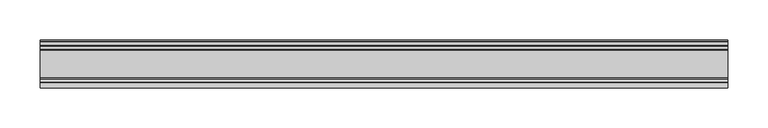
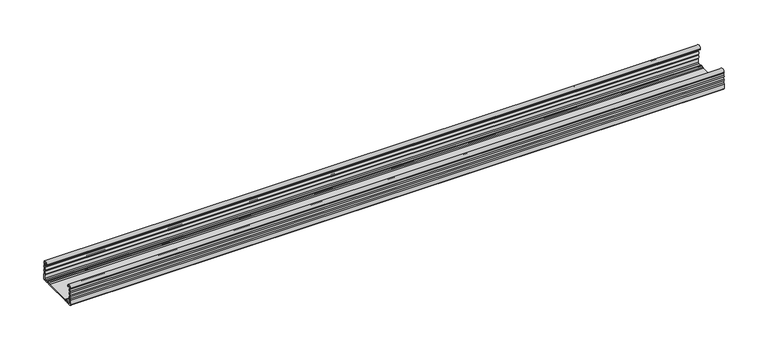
"""IFC4 building model written with IfcOpenShell, lengths in millimetres: proxy geometry, Несущий КНАУФ-профиль ПП 60х27 : Несущий КНАУФ-профиль ПП 60х27."""

import ifcopenshell
import ifcopenshell.guid

model = None  # the IFC model being written
_history = None  # IfcOwnerHistory: only IFC2X3 demands one
_inside = {}  # id of a spatial element -> (the spatial element, [elements in it])
_under = {}  # id of a project, library or spatial element -> (it, [spatial elements below it])
_declared = {}  # id of a project -> (the project, [libraries it declares])
_typed = {}  # id of a type object -> (the type object, [elements of that type])
_made_of = {}  # id of a material, layer set ... -> (it, [elements and type objects made of it])


def new_model(schema):
    """Start an empty IFC model of exactly this schema.

    Asked for "IFC4X3", IfcOpenShell would pick the latest addendum, in which some entities
    have other attributes; the version numbers below select the first issue.
    IFC2X3 requires an IfcOwnerHistory on every rooted entity: one is made here for all.
    """
    global model, _history
    if schema == "IFC4X3":
        model = ifcopenshell.file(schema_version=(4, 3, 0, 0))
    else:
        model = ifcopenshell.file(schema=schema)
    _inside.clear()
    _under.clear()
    _declared.clear()
    _typed.clear()
    _made_of.clear()
    _history = None
    if model.schema == "IFC2X3":
        org = make("IfcOrganization", Name="unknown")
        user = make(
            "IfcPersonAndOrganization",
            ThePerson=make("IfcPerson", FamilyName="unknown"),
            TheOrganization=org,
        )
        app = make(
            "IfcApplication",
            ApplicationDeveloper=org,
            Version="unknown",
            ApplicationFullName="unknown",
            ApplicationIdentifier="unknown",
        )
        _history = make(
            "IfcOwnerHistory",
            OwningUser=user,
            OwningApplication=app,
            ChangeAction="ADDED",
            CreationDate=0,
        )
    return model


def make(cls, **values):
    """One entity of the class cls with the attributes given. An attribute that is None is left unset."""
    return model.create_entity(
        cls, **{name: value for name, value in values.items() if value is not None}
    )


def rooted(cls, **values):
    """An entity with a GlobalId (a new one), such as an element, a storey or a relation."""
    return make(cls, GlobalId=ifcopenshell.guid.new(), OwnerHistory=_history, **values)


def si_unit(unit_type, name, prefix=None):
    """IfcSIUnit, for example si_unit("LENGTHUNIT", "METRE", prefix="MILLI")."""
    return make("IfcSIUnit", UnitType=unit_type, Prefix=prefix, Name=name)


def assignment(units):
    """IfcUnitAssignment: the units of a project."""
    return None if units is None else make("IfcUnitAssignment", Units=units)


def point(xyz):
    """IfcCartesianPoint."""
    return None if xyz is None else make("IfcCartesianPoint", Coordinates=xyz)


def direction(xyz):
    """IfcDirection."""
    return None if xyz is None else make("IfcDirection", DirectionRatios=xyz)


def frame(location, z_axis=None, x_axis=None):
    """IfcAxis2Placement3D, a coordinate frame: its origin and axes. An axis left out is left unset."""
    return make(
        "IfcAxis2Placement3D",
        Location=point(location),
        Axis=direction(z_axis),
        RefDirection=direction(x_axis),
    )


def frame_2d(location, x_axis=None):
    """IfcAxis2Placement2D, a coordinate frame in the plane: its origin and x axis."""
    return make(
        "IfcAxis2Placement2D", Location=point(location), RefDirection=direction(x_axis)
    )


def origin():
    """The frame at (0, 0, 0) with its axes left unset."""
    return frame((0.0, 0.0, 0.0))


def place(relative_to, where):
    """IfcLocalPlacement: puts the frame where relative to a parent placement (None: the world)."""
    return make(
        "IfcLocalPlacement", PlacementRelTo=relative_to, RelativePlacement=where
    )


def context(
    kind, dimensions, precision=None, world=None, true_north=None, identifier=None
):
    """IfcGeometricRepresentationContext, for example the 3D "Model" context."""
    return make(
        "IfcGeometricRepresentationContext",
        ContextIdentifier=identifier,
        ContextType=kind,
        CoordinateSpaceDimension=dimensions,
        Precision=precision,
        WorldCoordinateSystem=world,
        TrueNorth=true_north,
    )


def project(units=None, contexts=None):
    """IfcProject with its units and contexts."""
    return rooted(
        "IfcProject",
        Name="project",
        RepresentationContexts=contexts,
        UnitsInContext=assignment(units),
    )


def spatial(cls, under=None, at=None, **own):
    """A site, building, storey or space (cls), placed at a placement, below another one or the project."""
    s = rooted(cls, ObjectPlacement=at, **own)
    if under is not None:
        _under.setdefault(under.id(), (under, []))[1].append(s)
    return s


def polyline(points):
    """IfcPolyline through the points."""
    return make("IfcPolyline", Points=[point(p) for p in points])


def circle_curve(where, radius):
    """IfcCircle in the frame where."""
    return make("IfcCircle", Position=where, Radius=radius)


def trimmed(basis, trim1, trim2, sense, master):
    """IfcTrimmedCurve: the piece of a basis curve between two trims."""
    return make(
        "IfcTrimmedCurve",
        BasisCurve=basis,
        Trim1=trim1,
        Trim2=trim2,
        SenseAgreement=sense,
        MasterRepresentation=master,
    )


def segment(curve, same_sense, transition):
    """IfcCompositeCurveSegment."""
    return make(
        "IfcCompositeCurveSegment",
        Transition=transition,
        SameSense=same_sense,
        ParentCurve=curve,
    )


def composite_curve(segments, self_intersect=None):
    """IfcCompositeCurve: segments joined end to end."""
    return make("IfcCompositeCurve", Segments=segments, SelfIntersect=self_intersect)


def outline(outer, holes=None, kind="AREA"):
    """IfcArbitraryClosedProfileDef: a profile drawn as a closed curve; with holes, ...WithVoids."""
    if holes is None:
        return make("IfcArbitraryClosedProfileDef", ProfileType=kind, OuterCurve=outer)
    return make(
        "IfcArbitraryProfileDefWithVoids",
        ProfileType=kind,
        OuterCurve=outer,
        InnerCurves=holes,
    )


def extrude(swept, where, along, depth):
    """IfcExtrudedAreaSolid: the profile swept, set in the frame where, extruded along a direction by depth."""
    return make(
        "IfcExtrudedAreaSolid",
        SweptArea=swept,
        Position=where,
        ExtrudedDirection=direction(along),
        Depth=depth,
    )


def shape(context_of_items, identifier, shape_type, items):
    """IfcShapeRepresentation: the items that make up one representation, for example the "Body"."""
    return make(
        "IfcShapeRepresentation",
        ContextOfItems=context_of_items,
        RepresentationIdentifier=identifier,
        RepresentationType=shape_type,
        Items=items,
    )


def source(mapping_origin, context_of_items, identifier, shape_type, items):
    """IfcRepresentationMap: a shape defined once, which mapped items show again and again."""
    return make(
        "IfcRepresentationMap",
        MappingOrigin=mapping_origin,
        MappedRepresentation=shape(context_of_items, identifier, shape_type, items),
    )


def transform(
    local_origin,
    x_axis=None,
    y_axis=None,
    z_axis=None,
    scale=None,
    scale2=None,
    scale3=None,
    uniform=True,
):
    """IfcCartesianTransformationOperator3D, or its non-uniform kind. x_axis, y_axis, z_axis: its Axis1, 2, 3."""
    if uniform:
        return make(
            "IfcCartesianTransformationOperator3D",
            Axis1=direction(x_axis),
            Axis2=direction(y_axis),
            LocalOrigin=point(local_origin),
            Scale=scale,
            Axis3=direction(z_axis),
        )
    return make(
        "IfcCartesianTransformationOperator3DnonUniform",
        Axis1=direction(x_axis),
        Axis2=direction(y_axis),
        LocalOrigin=point(local_origin),
        Scale=scale,
        Axis3=direction(z_axis),
        Scale2=scale2,
        Scale3=scale3,
    )


def mapped(mapping_source, mapping_target):
    """IfcMappedItem: shows the shape of a source again, moved by a transform."""
    return make(
        "IfcMappedItem", MappingSource=mapping_source, MappingTarget=mapping_target
    )


def made_of(thing, what):
    """Note that an element or type object is made of a material, layer set ...; save() writes the relation."""
    if what is not None:
        _made_of.setdefault(what.id(), (what, []))[1].append(thing)
    return thing


def element(
    cls,
    number,
    at=None,
    inside=None,
    cuts=None,
    type_object=None,
    material=None,
    context=None,
    identifier="Body",
    shape_type=None,
    held_by="IfcProductDefinitionShape",
    body=None,
    shapes=None,
    **own,
):
    """One element of the class cls, such as IfcWall. Its Tag is "e" and its number.

    at: its placement. inside: the storey or other place that contains it. cuts: it is an
    opening in that element (IfcRelVoidsElement). A single representation is given by context,
    identifier, shape_type and body (its items); several are given by shapes. held_by: the class
    of the entity that holds the representations. save() writes the other relations.
    """
    e = rooted(cls, Tag="e%d" % number, ObjectPlacement=at, **own)
    if body is not None:
        shapes = [shape(context, identifier, shape_type, body)]
    if shapes is not None:
        e.Representation = make(held_by, Representations=shapes)
    if inside is not None:
        _inside.setdefault(inside.id(), (inside, []))[1].append(e)
    if cuts is not None:
        rooted(
            "IfcRelVoidsElement", RelatingBuildingElement=cuts, RelatedOpeningElement=e
        )
    if type_object is not None:
        _typed.setdefault(type_object.id(), (type_object, []))[1].append(e)
    return made_of(e, material)


def aggregate(whole, parts):
    """IfcRelAggregates: a whole, such as a stair, and the parts it consists of."""
    return rooted("IfcRelAggregates", RelatingObject=whole, RelatedObjects=parts)


def save(model, path):
    """Write the relations noted so far, then the file.

    IfcRelAggregates (storeys below a building ...), IfcRelContainedInSpatialStructure (elements
    in a storey), IfcRelDefinesByType, IfcRelAssociatesMaterial and IfcRelDeclares: one each for
    every whole, place, type object, material and project.
    """
    for whole, parts in _under.values():
        aggregate(whole, parts)
    for where, things in _inside.values():
        rooted(
            "IfcRelContainedInSpatialStructure",
            RelatedElements=things,
            RelatingStructure=where,
        )
    for kind, things in _typed.values():
        rooted("IfcRelDefinesByType", RelatedObjects=things, RelatingType=kind)
    for what, things in _made_of.values():
        rooted("IfcRelAssociatesMaterial", RelatedObjects=things, RelatingMaterial=what)
    for by, libraries in _declared.values():
        rooted("IfcRelDeclares", RelatingContext=by, RelatedDefinitions=libraries)
    model.write(path)


def generic_models_a31c8bdf(model_context):
    return source(origin(), model_context, "Body", "SweptSolid", [
        extrude(outline(composite_curve([segment(trimmed(circle_curve(frame_2d((30.75, 21.1911057)), 1.95), [point((29.424, 22.6208693))], [point((29.424, 19.7613421))], True, "CARTESIAN"), True, "CONTINUOUS"), segment(trimmed(circle_curve(frame_2d((28.2, 18.4415603)), 1.8), [point((29.424, 19.7613421))], [point((29.6853338, 17.4248088))], False, "CARTESIAN"), True, "CONTINUOUS"), segment(trimmed(circle_curve(frame_2d((30.75, 15.7911057)), 1.95), [point((29.6853338, 17.4248088))], [point((29.6853338, 14.1574026))], True, "CARTESIAN"), True, "CONTINUOUS"), segment(trimmed(circle_curve(frame_2d((28.2, 13.1406511)), 1.8), [point((29.6853338, 14.1574026))], [point((29.424, 11.8208693))], False, "CARTESIAN"), True, "CONTINUOUS"), segment(trimmed(circle_curve(frame_2d((30.75, 10.3911057)), 1.95), [point((29.424, 11.8208693))], [point((29.424, 8.9613421))], True, "CARTESIAN"), True, "CONTINUOUS"), segment(trimmed(circle_curve(frame_2d((28.2, 7.6415603)), 1.8), [point((29.424, 8.9613421))], [point((30.0, 7.6415603))], False, "CARTESIAN"), True, "CONTINUOUS"), segment(polyline([(30.0, 7.6415603), (30.0, 1.2)]), True, "CONTINUOUS"), segment(trimmed(circle_curve(frame_2d((28.8, 1.2)), 1.2), [point((30.0, 1.2))], [point((28.8, 0.0))], False, "CARTESIAN"), True, "CONTINUOUS"), segment(polyline([(28.8, 0.0), (23.4819519, 0.0)]), True, "CONTINUOUS"), segment(trimmed(circle_curve(frame_2d((23.4819519, 1.8)), 1.8), [point((23.4819519, 0.0))], [point((22.1621701, 0.576))], False, "CARTESIAN"), True, "CONTINUOUS"), segment(trimmed(circle_curve(frame_2d((20.7324065, -0.75)), 1.95), [point((22.1621701, 0.576))], [point((19.3026429, 0.576))], True, "CARTESIAN"), True, "CONTINUOUS"), segment(trimmed(circle_curve(frame_2d((17.9828611, 1.8)), 1.8), [point((19.3026429, 0.576))], [point((17.9828611, 0.0))], False, "CARTESIAN"), True, "CONTINUOUS"), segment(polyline([(17.9828611, 0.0), (-17.9828611, 0.0)]), True, "CONTINUOUS"), segment(trimmed(circle_curve(frame_2d((-17.9828611, 1.8)), 1.8), [point((-17.9828611, 0.0))], [point((-19.3026429, 0.576))], False, "CARTESIAN"), True, "CONTINUOUS"), segment(trimmed(circle_curve(frame_2d((-20.7324065, -0.75)), 1.95), [point((-19.3026429, 0.576))], [point((-22.1621701, 0.576))], True, "CARTESIAN"), True, "CONTINUOUS"), segment(trimmed(circle_curve(frame_2d((-23.4819519, 1.8)), 1.8), [point((-22.1621701, 0.576))], [point((-23.4819519, 0.0))], False, "CARTESIAN"), True, "CONTINUOUS"), segment(polyline([(-23.4819519, 0.0), (-28.8, 0.0)]), True, "CONTINUOUS"), segment(trimmed(circle_curve(frame_2d((-28.8, 1.2)), 1.2), [point((-28.8, 0.0))], [point((-30.0, 1.2))], False, "CARTESIAN"), True, "CONTINUOUS"), segment(polyline([(-30.0, 1.2), (-30.0, 7.6415603)]), True, "CONTINUOUS"), segment(trimmed(circle_curve(frame_2d((-28.2, 7.6415603)), 1.8), [point((-30.0, 7.6415603))], [point((-29.424, 8.9613421))], False, "CARTESIAN"), True, "CONTINUOUS"), segment(trimmed(circle_curve(frame_2d((-30.75, 10.3911057)), 1.95), [point((-29.424, 8.9613421))], [point((-29.424, 11.8208693))], True, "CARTESIAN"), True, "CONTINUOUS"), segment(trimmed(circle_curve(frame_2d((-28.2, 13.1406511)), 1.8), [point((-29.424, 11.8208693))], [point((-29.6853338, 14.1574026))], False, "CARTESIAN"), True, "CONTINUOUS"), segment(trimmed(circle_curve(frame_2d((-30.75, 15.7911057)), 1.95), [point((-29.6853338, 14.1574026))], [point((-29.6853338, 17.4248088))], True, "CARTESIAN"), True, "CONTINUOUS"), segment(trimmed(circle_curve(frame_2d((-28.2, 18.4415603)), 1.8), [point((-29.6853338, 17.4248088))], [point((-29.424, 19.7613421))], False, "CARTESIAN"), True, "CONTINUOUS"), segment(trimmed(circle_curve(frame_2d((-30.75, 21.1911057)), 1.95), [point((-29.424, 19.7613421))], [point((-29.424, 22.6208693))], True, "CARTESIAN"), True, "CONTINUOUS"), segment(trimmed(circle_curve(frame_2d((-28.2, 23.9406511)), 1.8), [point((-29.424, 22.6208693))], [point((-29.9990651, 23.8826448))], False, "CARTESIAN"), True, "CONTINUOUS"), segment(trimmed(circle_curve(frame_2d((-26.8817099, 23.8826448)), 3.1173552), [point((-29.9990651, 23.8826448))], [point((-23.7643548, 23.8826448))], False, "CARTESIAN"), True, "CONTINUOUS"), segment(polyline([(-23.7643548, 23.8826448), (-23.7643548, 23.0407729), (-24.9643548, 23.0407729), (-24.9643548, 23.8826448)]), True, "CONTINUOUS"), segment(trimmed(circle_curve(frame_2d((-26.8817099, 23.8826448)), 1.9173552), [point((-24.9643548, 23.8826448))], [point((-28.7514388, 24.3073386))], True, "CARTESIAN"), True, "CONTINUOUS"), segment(trimmed(circle_curve(frame_2d((-27.7762784, 24.0858388)), 1.0), [point((-28.7514388, 24.3073386))], [point((-28.4928378, 23.3883128))], True, "CARTESIAN"), True, "CONTINUOUS"), segment(trimmed(circle_curve(frame_2d((-30.75, 21.1911057)), 3.15), [point((-28.4928378, 23.3883128))], [point((-28.3578316, 19.1417081))], False, "CARTESIAN"), True, "CONTINUOUS"), segment(trimmed(circle_curve(frame_2d((-27.5984131, 18.4911057)), 1.0), [point((-28.3578316, 19.1417081))], [point((-28.3578316, 17.8405033))], True, "CARTESIAN"), True, "CONTINUOUS"), segment(trimmed(circle_curve(frame_2d((-30.75, 15.7911057)), 3.15), [point((-28.3578316, 17.8405033))], [point((-28.3578316, 13.7417081))], False, "CARTESIAN"), True, "CONTINUOUS"), segment(trimmed(circle_curve(frame_2d((-27.5984131, 13.0911057)), 1.0), [point((-28.3578316, 13.7417081))], [point((-28.3578316, 12.4405033))], True, "CARTESIAN"), True, "CONTINUOUS"), segment(trimmed(circle_curve(frame_2d((-30.75, 10.3911057)), 3.15), [point((-28.3578316, 12.4405033))], [point((-28.3339806, 8.3698808))], False, "CARTESIAN"), True, "CONTINUOUS"), segment(trimmed(circle_curve(frame_2d((-26.8, 7.0865634)), 2.0), [point((-28.3339806, 8.3698808))], [point((-28.8, 7.0865634))], True, "CARTESIAN"), True, "CONTINUOUS"), segment(polyline([(-28.8, 7.0865634), (-28.8, 2.4)]), True, "CONTINUOUS"), segment(trimmed(circle_curve(frame_2d((-27.6, 2.4)), 1.2), [point((-28.8, 2.4))], [point((-27.6, 1.2))], True, "CARTESIAN"), True, "CONTINUOUS"), segment(polyline([(-27.6, 1.2), (-24.382064, 1.2)]), True, "CONTINUOUS"), segment(trimmed(circle_curve(frame_2d((-24.382064, 4.2)), 3.0), [point((-24.382064, 1.2))], [point((-22.6017433, 1.7853659))], True, "CARTESIAN"), True, "CONTINUOUS"), segment(trimmed(circle_curve(frame_2d((-20.7324065, -0.75)), 3.15), [point((-22.6017433, 1.7853659))], [point((-18.8630697, 1.7853659))], False, "CARTESIAN"), True, "CONTINUOUS"), segment(trimmed(circle_curve(frame_2d((-17.082749, 4.2)), 3.0), [point((-18.8630697, 1.7853659))], [point((-17.082749, 1.2))], True, "CARTESIAN"), True, "CONTINUOUS"), segment(polyline([(-17.082749, 1.2), (17.082749, 1.2)]), True, "CONTINUOUS"), segment(trimmed(circle_curve(frame_2d((17.082749, 4.2)), 3.0), [point((17.082749, 1.2))], [point((18.8630697, 1.7853659))], True, "CARTESIAN"), True, "CONTINUOUS"), segment(trimmed(circle_curve(frame_2d((20.7324065, -0.75)), 3.15), [point((18.8630697, 1.7853659))], [point((22.6017433, 1.7853659))], False, "CARTESIAN"), True, "CONTINUOUS"), segment(trimmed(circle_curve(frame_2d((24.382064, 4.2)), 3.0), [point((22.6017433, 1.7853659))], [point((24.382064, 1.2))], True, "CARTESIAN"), True, "CONTINUOUS"), segment(polyline([(24.382064, 1.2), (27.6182196, 1.2)]), True, "CONTINUOUS"), segment(trimmed(circle_curve(frame_2d((27.6182196, 2.3817804)), 1.1817804), [point((27.6182196, 1.2))], [point((28.8, 2.3817804))], True, "CARTESIAN"), True, "CONTINUOUS"), segment(polyline([(28.8, 2.3817804), (28.8, 7.0865634)]), True, "CONTINUOUS"), segment(trimmed(circle_curve(frame_2d((26.8, 7.0865634)), 2.0), [point((28.8, 7.0865634))], [point((28.3339806, 8.3698808))], True, "CARTESIAN"), True, "CONTINUOUS"), segment(trimmed(circle_curve(frame_2d((30.75, 10.3911057)), 3.15), [point((28.3339806, 8.3698808))], [point((28.3578316, 12.4405033))], False, "CARTESIAN"), True, "CONTINUOUS"), segment(trimmed(circle_curve(frame_2d((27.5984131, 13.0911057)), 1.0), [point((28.3578316, 12.4405033))], [point((28.3578316, 13.7417081))], True, "CARTESIAN"), True, "CONTINUOUS"), segment(trimmed(circle_curve(frame_2d((30.75, 15.7911057)), 3.15), [point((28.3578316, 13.7417081))], [point((28.3578316, 17.8405033))], False, "CARTESIAN"), True, "CONTINUOUS"), segment(trimmed(circle_curve(frame_2d((27.5984131, 18.4911057)), 1.0), [point((28.3578316, 17.8405033))], [point((28.3578316, 19.1417081))], True, "CARTESIAN"), True, "CONTINUOUS"), segment(trimmed(circle_curve(frame_2d((30.75, 21.1911057)), 3.15), [point((28.3578316, 19.1417081))], [point((28.4928378, 23.3883128))], False, "CARTESIAN"), True, "CONTINUOUS"), segment(trimmed(circle_curve(frame_2d((27.7762784, 24.0858388)), 1.0), [point((28.4928378, 23.3883128))], [point((28.7514388, 24.3073386))], True, "CARTESIAN"), True, "CONTINUOUS"), segment(trimmed(circle_curve(frame_2d((26.8817099, 23.8826448)), 1.9173552), [point((28.7514388, 24.3073386))], [point((24.9643548, 23.8826448))], True, "CARTESIAN"), True, "CONTINUOUS"), segment(polyline([(24.9643548, 23.8826448), (24.9643548, 23.0407729), (23.7643548, 23.0407729), (23.7643548, 23.8826448)]), True, "CONTINUOUS"), segment(trimmed(circle_curve(frame_2d((26.8817099, 23.8826448)), 3.1173552), [point((23.7643548, 23.8826448))], [point((29.9990651, 23.8826448))], False, "CARTESIAN"), True, "CONTINUOUS"), segment(trimmed(circle_curve(frame_2d((28.2, 23.9406511)), 1.8), [point((29.9990651, 23.8826448))], [point((29.424, 22.6208693))], False, "CARTESIAN"), True, "CONTINUOUS")], self_intersect=False)), frame((-429.0409148, 0.0, 0.0), z_axis=(1.0, 0.0, 0.0), x_axis=(0.0, 1.0, 0.0)), (0.0, 0.0, 1.0), 858.0818296),
    ])


if __name__ == "__main__":
    model = new_model("IFC4")
    model_context = context("Model", 3, world=origin())
    ifc_project = project(units=[si_unit("LENGTHUNIT", "METRE", prefix="MILLI")], contexts=[model_context])
    site = spatial("IfcSite", under=ifc_project)
    building = spatial("IfcBuilding", under=site)
    placement = place(None, origin())
    generic_models_shape = generic_models_a31c8bdf(model_context)
    element("IfcBuildingElementProxy", 1, Name="Несущий КНАУФ-профиль ПП 60х27 : Несущий КНАУФ-профиль ПП 60х27", ObjectType="Несущий КНАУФ-профиль ПП 60х27 : Несущий КНАУФ-профиль ПП 60х27", at=placement, inside=building, context=model_context, shape_type="MappedRepresentation", body=[
        mapped(generic_models_shape, transform((0.0, 0.0, 0.0), x_axis=(1.0, 0.0, 0.0), y_axis=(0.0, 1.0, 0.0), z_axis=(0.0, 0.0, 1.0))),
    ])
    save(model, "model.ifc")
